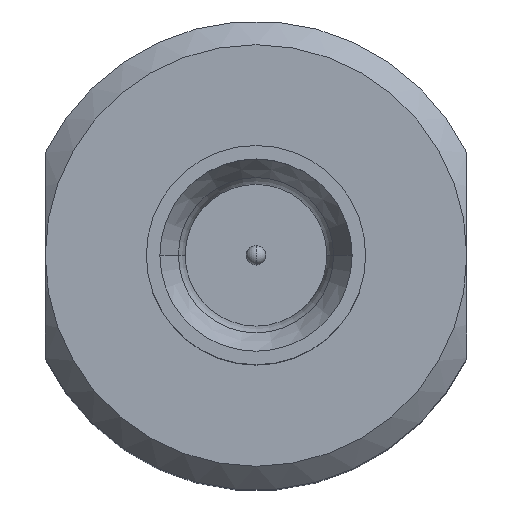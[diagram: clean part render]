
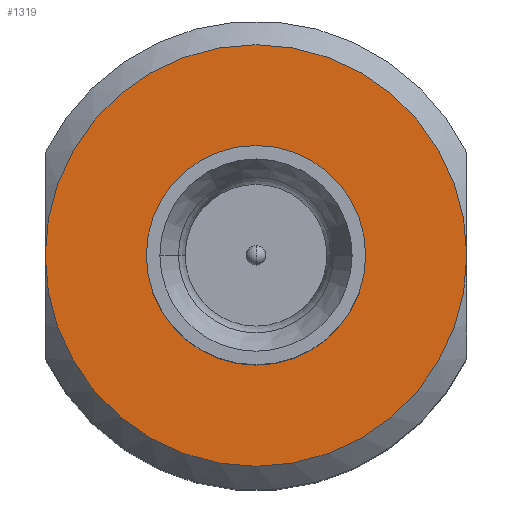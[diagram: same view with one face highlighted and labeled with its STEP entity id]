
A CAD part, top view. The second image highlights one B-rep face of the part: STEP entity #1319.
In plain terms, the highlighted planar face has unit normal (0, 0, 1).
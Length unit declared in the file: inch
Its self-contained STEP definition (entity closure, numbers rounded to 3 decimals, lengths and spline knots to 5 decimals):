
#50 = CIRCLE ( 'NONE', #1519, 0.125 ) ;
#96 = EDGE_LOOP ( 'NONE', ( #773, #1620 ) ) ;
#114 = CARTESIAN_POINT ( 'NONE',  ( 0., 0., -0.14 ) ) ;
#116 = CARTESIAN_POINT ( 'NONE',  ( 0., 0., -0.14 ) ) ;
#122 = DIRECTION ( 'NONE',  ( 0., 0., 1. ) ) ;
#243 = DIRECTION ( 'NONE',  ( 0., 0., 1. ) ) ;
#248 = AXIS2_PLACEMENT_3D ( 'NONE', #447, #1618, #610 ) ;
#271 = PLANE ( 'NONE',  #248 ) ;
#278 = DIRECTION ( 'NONE',  ( 1., 0., 0. ) ) ;
#385 = VERTEX_POINT ( 'NONE', #519 ) ;
#447 = CARTESIAN_POINT ( 'NONE',  ( 0., 0.065, -0.14 ) ) ;
#457 = EDGE_CURVE ( 'NONE', #2107, #385, #50, .T. ) ;
#519 = CARTESIAN_POINT ( 'NONE',  ( -0.125, 0., -0.14 ) ) ;
#542 = EDGE_CURVE ( 'NONE', #1258, #1158, #1458, .T. ) ;
#549 = DIRECTION ( 'NONE',  ( 1., 0., 0. ) ) ;
#610 = DIRECTION ( 'NONE',  ( -1., 0., 0. ) ) ;
#754 = CIRCLE ( 'NONE', #1733, 0.125 ) ;
#773 = ORIENTED_EDGE ( 'NONE', *, *, #1197, .F. ) ;
#980 = EDGE_CURVE ( 'NONE', #385, #2107, #754, .T. ) ;
#1053 = CARTESIAN_POINT ( 'NONE',  ( 0., 0., -0.14 ) ) ;
#1133 = EDGE_LOOP ( 'NONE', ( #1665, #2181 ) ) ;
#1158 = VERTEX_POINT ( 'NONE', #1285 ) ;
#1197 = EDGE_CURVE ( 'NONE', #1158, #1258, #1845, .T. ) ;
#1238 = CARTESIAN_POINT ( 'NONE',  ( 0., 0., -0.14 ) ) ;
#1251 = CARTESIAN_POINT ( 'NONE',  ( 0.125, 0., -0.14 ) ) ;
#1258 = VERTEX_POINT ( 'NONE', #1770 ) ;
#1261 = DIRECTION ( 'NONE',  ( 0., 0., 1. ) ) ;
#1285 = CARTESIAN_POINT ( 'NONE',  ( 0.065, 0., -0.14 ) ) ;
#1319 = ADVANCED_FACE ( 'NONE', ( #1947, #1994 ), #271, .F. ) ;
#1387 = DIRECTION ( 'NONE',  ( 0., 0., 1. ) ) ;
#1398 = DIRECTION ( 'NONE',  ( 1., 0., 0. ) ) ;
#1458 = CIRCLE ( 'NONE', #1589, 0.065 ) ;
#1519 = AXIS2_PLACEMENT_3D ( 'NONE', #114, #122, #549 ) ;
#1589 = AXIS2_PLACEMENT_3D ( 'NONE', #1053, #1387, #1735 ) ;
#1618 = DIRECTION ( 'NONE',  ( 0., 0., -1. ) ) ;
#1620 = ORIENTED_EDGE ( 'NONE', *, *, #542, .F. ) ;
#1665 = ORIENTED_EDGE ( 'NONE', *, *, #457, .T. ) ;
#1733 = AXIS2_PLACEMENT_3D ( 'NONE', #116, #1261, #278 ) ;
#1735 = DIRECTION ( 'NONE',  ( 1., 0., 0. ) ) ;
#1770 = CARTESIAN_POINT ( 'NONE',  ( -0.065, 0., -0.14 ) ) ;
#1845 = CIRCLE ( 'NONE', #1876, 0.065 ) ;
#1876 = AXIS2_PLACEMENT_3D ( 'NONE', #1238, #243, #1398 ) ;
#1947 = FACE_OUTER_BOUND ( 'NONE', #1133, .T. ) ;
#1994 = FACE_BOUND ( 'NONE', #96, .T. ) ;
#2107 = VERTEX_POINT ( 'NONE', #1251 ) ;
#2181 = ORIENTED_EDGE ( 'NONE', *, *, #980, .T. ) ;
